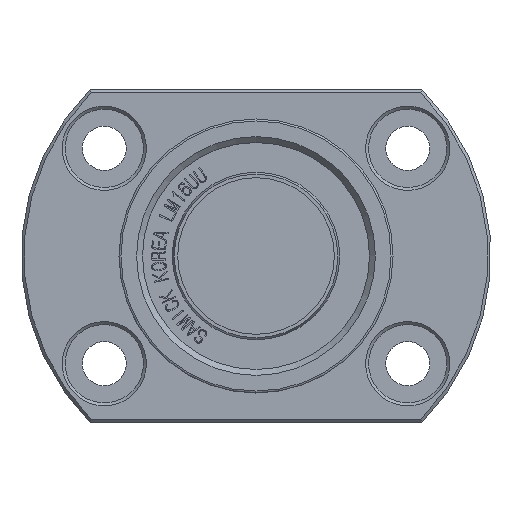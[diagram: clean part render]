
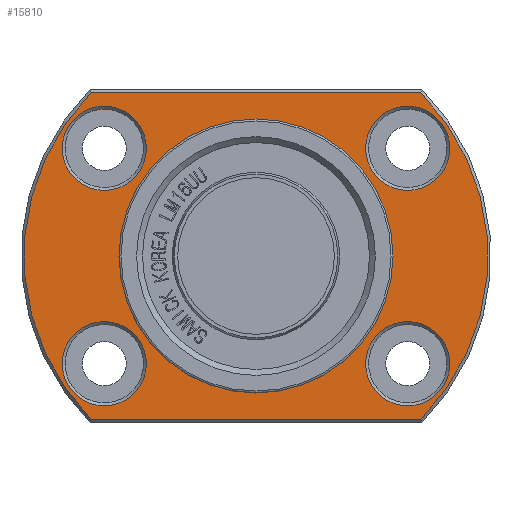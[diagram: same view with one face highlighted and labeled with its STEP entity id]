
A CAD part, front view. The second image highlights one B-rep face of the part: STEP entity #15810.
In plain terms, the highlighted planar face has unit normal (0, -1, 0).
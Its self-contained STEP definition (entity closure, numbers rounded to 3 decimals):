
#2595=FACE_BOUND('',#3747,.T.);
#2596=FACE_BOUND('',#3748,.T.);
#2597=FACE_BOUND('',#3749,.T.);
#2598=FACE_BOUND('',#3750,.T.);
#2599=FACE_BOUND('',#3751,.T.);
#2659=PLANE('',#16687);
#2892=FACE_OUTER_BOUND('',#3746,.T.);
#3746=EDGE_LOOP('',(#11006,#11007,#11008,#11009));
#3747=EDGE_LOOP('',(#11010));
#3748=EDGE_LOOP('',(#11011));
#3749=EDGE_LOOP('',(#11012,#11013));
#3750=EDGE_LOOP('',(#11014));
#3751=EDGE_LOOP('',(#11015));
#4664=LINE('',#18871,#5794);
#4665=LINE('',#18875,#5795);
#5794=VECTOR('',#17044,10.);
#5795=VECTOR('',#17047,10.);
#6923=CIRCLE('',#16684,4.3);
#6926=CIRCLE('',#16688,23.7);
#6927=CIRCLE('',#16689,23.7);
#6928=CIRCLE('',#16690,4.3);
#6929=CIRCLE('',#16691,4.3);
#6930=CIRCLE('',#16692,14.);
#6931=CIRCLE('',#16693,14.);
#6932=CIRCLE('',#16694,4.3);
#7005=VERTEX_POINT('',#18861);
#7008=VERTEX_POINT('',#18869);
#7009=VERTEX_POINT('',#18870);
#7010=VERTEX_POINT('',#18872);
#7011=VERTEX_POINT('',#18874);
#7012=VERTEX_POINT('',#18877);
#7013=VERTEX_POINT('',#18879);
#7014=VERTEX_POINT('',#18881);
#7015=VERTEX_POINT('',#18882);
#7016=VERTEX_POINT('',#18885);
#8605=EDGE_CURVE('',#7005,#7005,#6923,.T.);
#8609=EDGE_CURVE('',#7008,#7009,#4664,.T.);
#8610=EDGE_CURVE('',#7008,#7010,#6926,.T.);
#8611=EDGE_CURVE('',#7011,#7010,#4665,.T.);
#8612=EDGE_CURVE('',#7011,#7009,#6927,.T.);
#8613=EDGE_CURVE('',#7012,#7012,#6928,.T.);
#8614=EDGE_CURVE('',#7013,#7013,#6929,.T.);
#8615=EDGE_CURVE('',#7014,#7015,#6930,.T.);
#8616=EDGE_CURVE('',#7015,#7014,#6931,.T.);
#8617=EDGE_CURVE('',#7016,#7016,#6932,.T.);
#11006=ORIENTED_EDGE('',*,*,#8609,.F.);
#11007=ORIENTED_EDGE('',*,*,#8610,.T.);
#11008=ORIENTED_EDGE('',*,*,#8611,.F.);
#11009=ORIENTED_EDGE('',*,*,#8612,.T.);
#11010=ORIENTED_EDGE('',*,*,#8613,.F.);
#11011=ORIENTED_EDGE('',*,*,#8614,.F.);
#11012=ORIENTED_EDGE('',*,*,#8615,.F.);
#11013=ORIENTED_EDGE('',*,*,#8616,.F.);
#11014=ORIENTED_EDGE('',*,*,#8617,.F.);
#11015=ORIENTED_EDGE('',*,*,#8605,.F.);
#15810=ADVANCED_FACE('',(#2892,#2595,#2596,#2597,#2598,#2599),#2659,.T.);
#16684=AXIS2_PLACEMENT_3D('',#18862,#17035,#17036);
#16687=AXIS2_PLACEMENT_3D('',#18868,#17042,#17043);
#16688=AXIS2_PLACEMENT_3D('',#18873,#17045,#17046);
#16689=AXIS2_PLACEMENT_3D('',#18876,#17048,#17049);
#16690=AXIS2_PLACEMENT_3D('',#18878,#17050,#17051);
#16691=AXIS2_PLACEMENT_3D('',#18880,#17052,#17053);
#16692=AXIS2_PLACEMENT_3D('',#18883,#17054,#17055);
#16693=AXIS2_PLACEMENT_3D('',#18884,#17056,#17057);
#16694=AXIS2_PLACEMENT_3D('',#18886,#17058,#17059);
#17035=DIRECTION('center_axis',(0.,-1.,0.));
#17036=DIRECTION('ref_axis',(-1.,0.,0.));
#17042=DIRECTION('center_axis',(0.,-1.,0.));
#17043=DIRECTION('ref_axis',(0.,0.,-1.));
#17044=DIRECTION('',(-1.,0.,0.));
#17045=DIRECTION('center_axis',(0.,-1.,0.));
#17046=DIRECTION('ref_axis',(1.,0.,0.));
#17047=DIRECTION('',(1.,0.,0.));
#17048=DIRECTION('center_axis',(0.,-1.,0.));
#17049=DIRECTION('ref_axis',(1.,0.,0.));
#17050=DIRECTION('center_axis',(0.,-1.,0.));
#17051=DIRECTION('ref_axis',(-1.,0.,0.));
#17052=DIRECTION('center_axis',(0.,-1.,0.));
#17053=DIRECTION('ref_axis',(-1.,0.,0.));
#17054=DIRECTION('center_axis',(0.,-1.,0.));
#17055=DIRECTION('ref_axis',(1.,0.,0.));
#17056=DIRECTION('center_axis',(0.,-1.,0.));
#17057=DIRECTION('ref_axis',(1.,0.,0.));
#17058=DIRECTION('center_axis',(0.,-1.,0.));
#17059=DIRECTION('ref_axis',(-1.,0.,0.));
#18861=CARTESIAN_POINT('',(-11.2,-35.,-11.));
#18862=CARTESIAN_POINT('Origin',(-15.5,-35.,-11.));
#18868=CARTESIAN_POINT('Origin',(18.85,-35.,0.));
#18869=CARTESIAN_POINT('',(16.817,-35.,-16.7));
#18870=CARTESIAN_POINT('',(-16.817,-35.,-16.7));
#18871=CARTESIAN_POINT('',(23.175,-35.,-16.7));
#18872=CARTESIAN_POINT('',(16.817,-35.,16.7));
#18873=CARTESIAN_POINT('Origin',(0.,-35.,0.));
#18874=CARTESIAN_POINT('',(-16.817,-35.,16.7));
#18875=CARTESIAN_POINT('',(-4.325,-35.,16.7));
#18876=CARTESIAN_POINT('Origin',(0.,-35.,0.));
#18877=CARTESIAN_POINT('',(-11.2,-35.,11.));
#18878=CARTESIAN_POINT('Origin',(-15.5,-35.,11.));
#18879=CARTESIAN_POINT('',(19.8,-35.,11.));
#18880=CARTESIAN_POINT('Origin',(15.5,-35.,11.));
#18881=CARTESIAN_POINT('',(14.,-35.,0.));
#18882=CARTESIAN_POINT('',(-14.,-35.,0.));
#18883=CARTESIAN_POINT('Origin',(0.,-35.,0.));
#18884=CARTESIAN_POINT('Origin',(0.,-35.,0.));
#18885=CARTESIAN_POINT('',(19.8,-35.,-11.));
#18886=CARTESIAN_POINT('Origin',(15.5,-35.,-11.));
